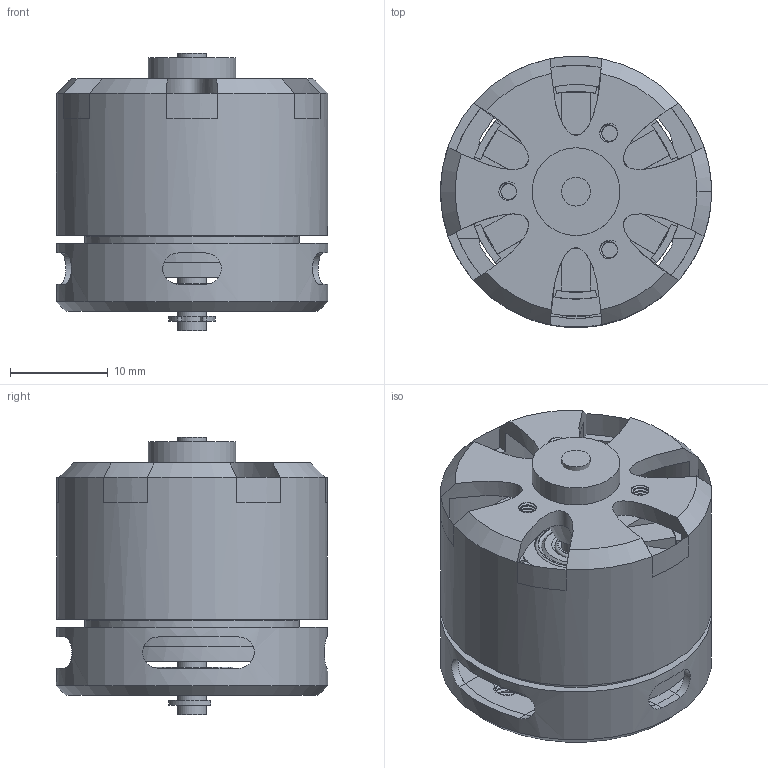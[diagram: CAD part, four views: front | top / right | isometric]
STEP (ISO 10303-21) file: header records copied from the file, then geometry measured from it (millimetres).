
FILE_DESCRIPTION(('FreeCAD Model'),'2;1');
FILE_NAME('Open CASCADE Shape Model','2023-10-07T21:48:37',(''),(''), 'Open CASCADE STEP processor 7.6','FreeCAD','Unknown');
FILE_SCHEMA(('AUTOMOTIVE_DESIGN { 1 0 10303 214 1 1 1 1 }'));
Length unit declared in the file: millimetre
Products named in the file (13): _208_90KV_gimbal_brushless_motor; 2.5-3 mm-RetainingRing; Pocket009; Hole001; Deep_Groove_Ball_Bearing001; Pad004; Pad006; Array001; Pad003; Array; Pad002; Deep_Groove_Ball_Bearing; Chamfer
Assembly tree (34 placements, depth 3):
  _208_90KV_gimbal_brushless_motor
    2.5-3 mm-RetainingRing
    Pocket009
    Hole001
    Deep_Groove_Ball_Bearing001
    Pad004
    Pad006
    Array001
      Pad003  x12
    Array
      Pad002  x12
    Deep_Groove_Ball_Bearing
    Chamfer
Bounding box: 27.8 x 27.8 x 28.5 mm (x, y, z)
Volume: 6532 mm3; surface area: 12137.8 mm2
Topology: 30 solids, 32 shells, 605 faces, 1419 edges, 881 vertices
Faces by surface type: plane 281, cylinder 144, bspline 135, cone 23, revolution 12, extrusion 6, torus 4
Full cylindrical faces by diameter (mm): 1.619 x12, 2.5 x1, 2.52 x20, 2.96 x2, 3 x2, 8.4 x2, 8.45 x2, 9 x1, 11.6 x1, 12 x2, 22 x1, 26 x1, 26.1 x1, 27.8 x2
Entity records: 53606 total; most frequent: CARTESIAN_POINT 37147, DIRECTION 2391, ORIENTED_EDGE 1782, PCURVE 1782, DEFINITIONAL_REPRESENTATION 1782, VECTOR 1159, LINE 1153, B_SPLINE_CURVE_WITH_KNOTS 1014
